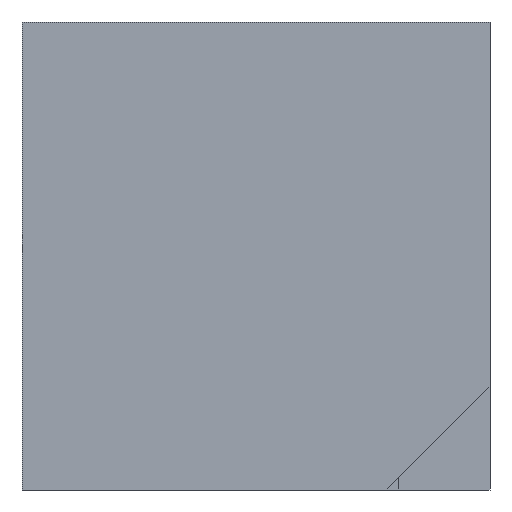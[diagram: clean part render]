
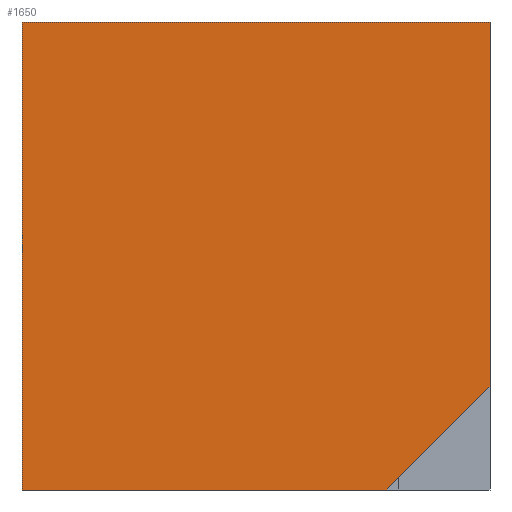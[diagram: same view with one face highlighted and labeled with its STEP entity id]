
A CAD part, left-side view. The second image highlights one B-rep face of the part: STEP entity #1650.
In plain terms, the highlighted planar face has unit normal (-1, 0, 0).
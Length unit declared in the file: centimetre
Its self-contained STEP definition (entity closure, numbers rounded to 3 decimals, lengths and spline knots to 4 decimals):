
#49 = LINE ( 'NONE', #1119, #638 ) ;
#70 = VERTEX_POINT ( 'NONE', #1645 ) ;
#110 = ORIENTED_EDGE ( 'NONE', *, *, #1236, .T. ) ;
#112 = DIRECTION ( 'NONE',  ( 0., 0., -1. ) ) ;
#114 = CARTESIAN_POINT ( 'NONE',  ( 0., 1000., 1000. ) ) ;
#132 = CARTESIAN_POINT ( 'NONE',  ( 0., 0., 1000. ) ) ;
#181 = ORIENTED_EDGE ( 'NONE', *, *, #795, .F. ) ;
#182 = VECTOR ( 'NONE', #112, 100. ) ;
#232 = CARTESIAN_POINT ( 'NONE',  ( 0., 221.4913, 0. ) ) ;
#285 = VERTEX_POINT ( 'NONE', #1453 ) ;
#371 = VECTOR ( 'NONE', #968, 100. ) ;
#385 = VECTOR ( 'NONE', #1758, 100. ) ;
#534 = VERTEX_POINT ( 'NONE', #661 ) ;
#615 = FACE_OUTER_BOUND ( 'NONE', #1498, .T. ) ;
#638 = VECTOR ( 'NONE', #1270, 100. ) ;
#661 = CARTESIAN_POINT ( 'NONE',  ( 0., 221.4913, 0. ) ) ;
#708 = CARTESIAN_POINT ( 'NONE',  ( 0., 1000., 1000. ) ) ;
#711 = EDGE_CURVE ( 'NONE', #70, #534, #1749, .T. ) ;
#718 = CARTESIAN_POINT ( 'NONE',  ( 0., 1000., 1000. ) ) ;
#795 = EDGE_CURVE ( 'NONE', #1161, #70, #1209, .T. ) ;
#968 = DIRECTION ( 'NONE',  ( 0., -1., 0. ) ) ;
#980 = ORIENTED_EDGE ( 'NONE', *, *, #1253, .F. ) ;
#1049 = VERTEX_POINT ( 'NONE', #114 ) ;
#1092 = LINE ( 'NONE', #708, #1374 ) ;
#1102 = DIRECTION ( 'NONE',  ( 0., 0., -1. ) ) ;
#1119 = CARTESIAN_POINT ( 'NONE',  ( 0., 1000., 0. ) ) ;
#1135 = DIRECTION ( 'NONE',  ( 1., 0., 0. ) ) ;
#1156 = DIRECTION ( 'NONE',  ( 0., 0., -1. ) ) ;
#1161 = VERTEX_POINT ( 'NONE', #132 ) ;
#1175 = AXIS2_PLACEMENT_3D ( 'NONE', #1708, #1135, #1156 ) ;
#1207 = ORIENTED_EDGE ( 'NONE', *, *, #711, .F. ) ;
#1209 = LINE ( 'NONE', #1353, #182 ) ;
#1236 = EDGE_CURVE ( 'NONE', #1049, #285, #1092, .T. ) ;
#1241 = LINE ( 'NONE', #718, #371 ) ;
#1244 = ORIENTED_EDGE ( 'NONE', *, *, #1372, .T. ) ;
#1253 = EDGE_CURVE ( 'NONE', #1049, #1161, #1241, .T. ) ;
#1270 = DIRECTION ( 'NONE',  ( 0., -1., 0. ) ) ;
#1353 = CARTESIAN_POINT ( 'NONE',  ( 0., 0., 1000. ) ) ;
#1372 = EDGE_CURVE ( 'NONE', #285, #534, #49, .T. ) ;
#1374 = VECTOR ( 'NONE', #1102, 100. ) ;
#1402 = PLANE ( 'NONE',  #1175 ) ;
#1453 = CARTESIAN_POINT ( 'NONE',  ( 0., 1000., 0. ) ) ;
#1498 = EDGE_LOOP ( 'NONE', ( #1244, #1207, #181, #980, #110 ) ) ;
#1645 = CARTESIAN_POINT ( 'NONE',  ( 0., 0., 221.4913 ) ) ;
#1650 = ADVANCED_FACE ( 'NONE', ( #615 ), #1402, .F. ) ;
#1708 = CARTESIAN_POINT ( 'NONE',  ( 0., 1000., 1000. ) ) ;
#1749 = LINE ( 'NONE', #232, #385 ) ;
#1758 = DIRECTION ( 'NONE',  ( 0., 0.707, -0.707 ) ) ;
